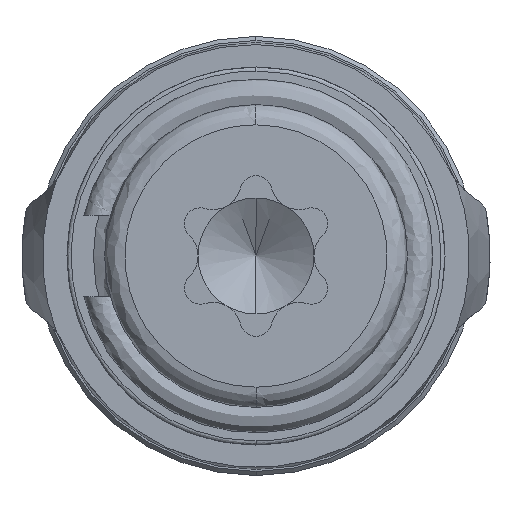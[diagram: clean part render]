
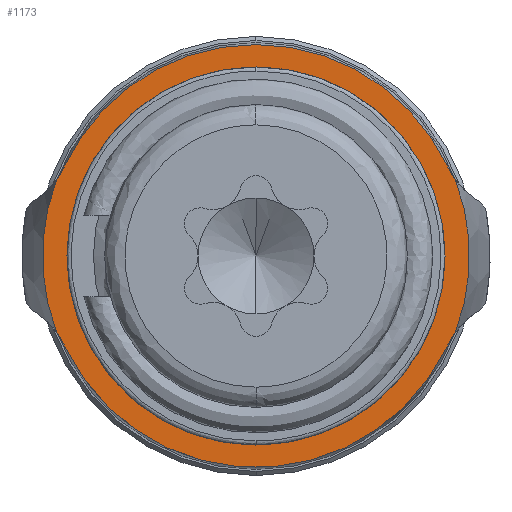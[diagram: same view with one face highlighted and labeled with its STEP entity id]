
A CAD part, front view. The second image highlights one B-rep face of the part: STEP entity #1173.
In plain terms, the highlighted planar face has unit normal (0, -1, 0).
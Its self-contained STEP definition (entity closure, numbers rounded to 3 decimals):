
#28 = CARTESIAN_POINT ( 'NONE',  ( 0., 10.05, 0. ) ) ;
#66 = EDGE_CURVE ( 'NONE', #3698, #2954, #754, .T. ) ;
#140 = ORIENTED_EDGE ( 'NONE', *, *, #2499, .F. ) ;
#142 = DIRECTION ( 'NONE',  ( 0., 0., -1. ) ) ;
#146 = DIRECTION ( 'NONE',  ( 0., -1., 0. ) ) ;
#157 = DIRECTION ( 'NONE',  ( 0., 1., 0. ) ) ;
#167 = ORIENTED_EDGE ( 'NONE', *, *, #4848, .F. ) ;
#182 = DIRECTION ( 'NONE',  ( 0., 0., 1. ) ) ;
#196 = CARTESIAN_POINT ( 'NONE',  ( -4.903, 10.05, -1.882 ) ) ;
#213 = AXIS2_PLACEMENT_3D ( 'NONE', #28, #146, #142 ) ;
#266 = DIRECTION ( 'NONE',  ( 0., 1., 0. ) ) ;
#376 = AXIS2_PLACEMENT_3D ( 'NONE', #4338, #3416, #3398 ) ;
#433 = ORIENTED_EDGE ( 'NONE', *, *, #1988, .F. ) ;
#440 = CIRCLE ( 'NONE', #376, 2. ) ;
#533 = CARTESIAN_POINT ( 'NONE',  ( 4.705, 10.05, 2.215 ) ) ;
#621 = EDGE_CURVE ( 'NONE', #1356, #5201, #4798, .T. ) ;
#711 = CIRCLE ( 'NONE', #1507, 4.65 ) ;
#724 = CARTESIAN_POINT ( 'NONE',  ( -4.705, 10.05, -2.215 ) ) ;
#754 = CIRCLE ( 'NONE', #3646, 2. ) ;
#778 = AXIS2_PLACEMENT_3D ( 'NONE', #4484, #266, #4500 ) ;
#783 = VERTEX_POINT ( 'NONE', #2034 ) ;
#833 = DIRECTION ( 'NONE',  ( 0., 0., 1. ) ) ;
#847 = AXIS2_PLACEMENT_3D ( 'NONE', #2629, #2536, #2693 ) ;
#849 = DIRECTION ( 'NONE',  ( 0., -1., 0. ) ) ;
#972 = EDGE_CURVE ( 'NONE', #4167, #2597, #4929, .T. ) ;
#1048 = CARTESIAN_POINT ( 'NONE',  ( 4.903, 10.05, 1.882 ) ) ;
#1056 = EDGE_CURVE ( 'NONE', #3698, #5201, #4863, .T. ) ;
#1088 = CIRCLE ( 'NONE', #213, 4.65 ) ;
#1148 = AXIS2_PLACEMENT_3D ( 'NONE', #5904, #849, #833 ) ;
#1173 = ADVANCED_FACE ( 'NONE', ( #4792, #5373 ), #2571, .T. ) ;
#1217 = VERTEX_POINT ( 'NONE', #4276 ) ;
#1287 = ORIENTED_EDGE ( 'NONE', *, *, #66, .T. ) ;
#1329 = ORIENTED_EDGE ( 'NONE', *, *, #2650, .T. ) ;
#1337 = VERTEX_POINT ( 'NONE', #1048 ) ;
#1356 = VERTEX_POINT ( 'NONE', #5767 ) ;
#1357 = DIRECTION ( 'NONE',  ( 0., 0., 1. ) ) ;
#1465 = VERTEX_POINT ( 'NONE', #4106 ) ;
#1507 = AXIS2_PLACEMENT_3D ( 'NONE', #2631, #2588, #2542 ) ;
#1643 = CARTESIAN_POINT ( 'NONE',  ( 0., 10.05, 0. ) ) ;
#1826 = EDGE_CURVE ( 'NONE', #1217, #5919, #1979, .T. ) ;
#1842 = EDGE_CURVE ( 'NONE', #1356, #4167, #5043, .T. ) ;
#1861 = DIRECTION ( 'NONE',  ( 0., 0., -1. ) ) ;
#1899 = EDGE_CURVE ( 'NONE', #5919, #1337, #4228, .T. ) ;
#1979 = CIRCLE ( 'NONE', #2106, 2. ) ;
#1988 = EDGE_CURVE ( 'NONE', #783, #1465, #1088, .T. ) ;
#2034 = CARTESIAN_POINT ( 'NONE',  ( 0., 10.05, -4.65 ) ) ;
#2106 = AXIS2_PLACEMENT_3D ( 'NONE', #3865, #5608, #4770 ) ;
#2161 = DIRECTION ( 'NONE',  ( 0., 1., 0. ) ) ;
#2207 = AXIS2_PLACEMENT_3D ( 'NONE', #1643, #157, #182 ) ;
#2237 = ORIENTED_EDGE ( 'NONE', *, *, #1056, .F. ) ;
#2499 = EDGE_CURVE ( 'NONE', #1465, #783, #711, .T. ) ;
#2536 = DIRECTION ( 'NONE',  ( 0., 1., 0. ) ) ;
#2542 = DIRECTION ( 'NONE',  ( 0., 0., -1. ) ) ;
#2571 = PLANE ( 'NONE',  #3627 ) ;
#2588 = DIRECTION ( 'NONE',  ( 0., -1., 0. ) ) ;
#2597 = VERTEX_POINT ( 'NONE', #533 ) ;
#2629 = CARTESIAN_POINT ( 'NONE',  ( 0., 10.05, 0. ) ) ;
#2631 = CARTESIAN_POINT ( 'NONE',  ( 0., 10.05, 0. ) ) ;
#2650 = EDGE_CURVE ( 'NONE', #1337, #2597, #440, .T. ) ;
#2680 = ORIENTED_EDGE ( 'NONE', *, *, #621, .T. ) ;
#2686 = CARTESIAN_POINT ( 'NONE',  ( 0., 10.05, 5.2 ) ) ;
#2693 = DIRECTION ( 'NONE',  ( 0., 0., 1. ) ) ;
#2731 = ORIENTED_EDGE ( 'NONE', *, *, #1826, .T. ) ;
#2954 = VERTEX_POINT ( 'NONE', #724 ) ;
#3041 = DIRECTION ( 'NONE',  ( 0., 0., 1. ) ) ;
#3293 = CARTESIAN_POINT ( 'NONE',  ( 0., 10.05, 0. ) ) ;
#3398 = DIRECTION ( 'NONE',  ( 0., 0., 1. ) ) ;
#3416 = DIRECTION ( 'NONE',  ( 0., 1., 0. ) ) ;
#3427 = CARTESIAN_POINT ( 'NONE',  ( 0., 10.05, 0. ) ) ;
#3608 = EDGE_LOOP ( 'NONE', ( #433, #140 ) ) ;
#3627 = AXIS2_PLACEMENT_3D ( 'NONE', #3293, #5444, #1861 ) ;
#3646 = AXIS2_PLACEMENT_3D ( 'NONE', #5394, #2161, #1357 ) ;
#3698 = VERTEX_POINT ( 'NONE', #196 ) ;
#3865 = CARTESIAN_POINT ( 'NONE',  ( 6.514, 10.05, -3.067 ) ) ;
#4106 = CARTESIAN_POINT ( 'NONE',  ( 0., 10.05, 4.65 ) ) ;
#4167 = VERTEX_POINT ( 'NONE', #2686 ) ;
#4228 = CIRCLE ( 'NONE', #1148, 5.252 ) ;
#4276 = CARTESIAN_POINT ( 'NONE',  ( 4.705, 10.05, -2.215 ) ) ;
#4338 = CARTESIAN_POINT ( 'NONE',  ( 6.514, 10.05, 3.067 ) ) ;
#4484 = CARTESIAN_POINT ( 'NONE',  ( -6.514, 10.05, 3.067 ) ) ;
#4500 = DIRECTION ( 'NONE',  ( 0., 0., 1. ) ) ;
#4579 = CARTESIAN_POINT ( 'NONE',  ( 0., 10.05, 0. ) ) ;
#4590 = DIRECTION ( 'NONE',  ( 0., 1., 0. ) ) ;
#4623 = DIRECTION ( 'NONE',  ( 0., 0., 1. ) ) ;
#4770 = DIRECTION ( 'NONE',  ( 0., 0., 1. ) ) ;
#4792 = FACE_OUTER_BOUND ( 'NONE', #5925, .T. ) ;
#4798 = CIRCLE ( 'NONE', #778, 2. ) ;
#4799 = AXIS2_PLACEMENT_3D ( 'NONE', #4579, #4590, #4623 ) ;
#4841 = ORIENTED_EDGE ( 'NONE', *, *, #1899, .T. ) ;
#4848 = EDGE_CURVE ( 'NONE', #1217, #2954, #5825, .T. ) ;
#4863 = CIRCLE ( 'NONE', #847, 5.252 ) ;
#4929 = CIRCLE ( 'NONE', #2207, 5.2 ) ;
#4961 = ORIENTED_EDGE ( 'NONE', *, *, #972, .F. ) ;
#5033 = CARTESIAN_POINT ( 'NONE',  ( -4.903, 10.05, 1.882 ) ) ;
#5043 = CIRCLE ( 'NONE', #5522, 5.2 ) ;
#5201 = VERTEX_POINT ( 'NONE', #5033 ) ;
#5373 = FACE_BOUND ( 'NONE', #3608, .T. ) ;
#5394 = CARTESIAN_POINT ( 'NONE',  ( -6.514, 10.05, -3.067 ) ) ;
#5444 = DIRECTION ( 'NONE',  ( 0., -1., 0. ) ) ;
#5522 = AXIS2_PLACEMENT_3D ( 'NONE', #3427, #5609, #3041 ) ;
#5608 = DIRECTION ( 'NONE',  ( 0., 1., 0. ) ) ;
#5609 = DIRECTION ( 'NONE',  ( 0., 1., 0. ) ) ;
#5615 = CARTESIAN_POINT ( 'NONE',  ( 4.903, 10.05, -1.882 ) ) ;
#5710 = ORIENTED_EDGE ( 'NONE', *, *, #1842, .F. ) ;
#5767 = CARTESIAN_POINT ( 'NONE',  ( -4.705, 10.05, 2.215 ) ) ;
#5825 = CIRCLE ( 'NONE', #4799, 5.2 ) ;
#5904 = CARTESIAN_POINT ( 'NONE',  ( 0., 10.05, 0. ) ) ;
#5919 = VERTEX_POINT ( 'NONE', #5615 ) ;
#5925 = EDGE_LOOP ( 'NONE', ( #5710, #2680, #2237, #1287, #167, #2731, #4841, #1329, #4961 ) ) ;
